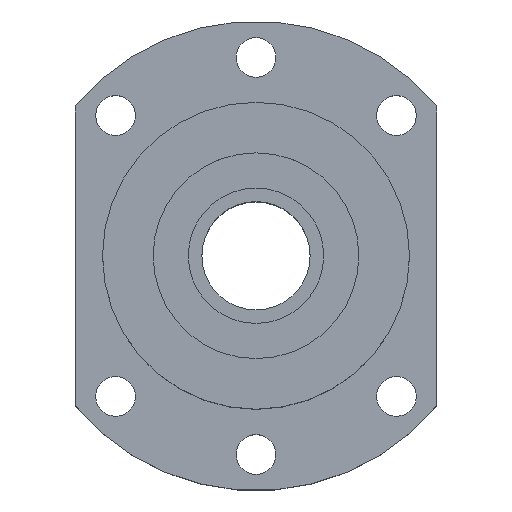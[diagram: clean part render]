
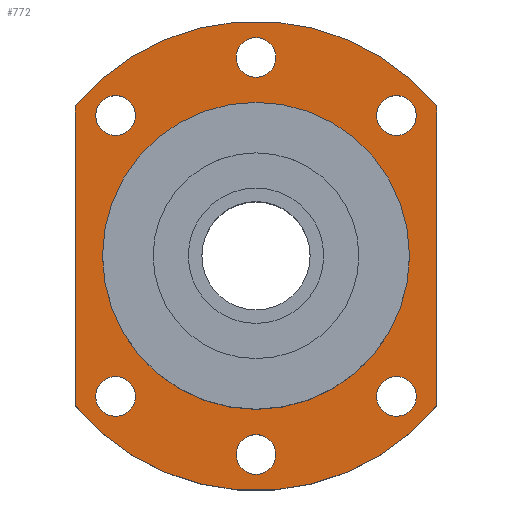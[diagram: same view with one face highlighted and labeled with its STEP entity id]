
A CAD part, top view. The second image highlights one B-rep face of the part: STEP entity #772.
In plain terms, the highlighted planar face has unit normal (0, 0, 1).
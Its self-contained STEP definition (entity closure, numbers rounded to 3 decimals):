
#70=LINE($,#1339,#102);
#71=LINE($,#1342,#103);
#102=VECTOR($,#1123,83.066);
#103=VECTOR($,#1126,83.066);
#152=FACE_BOUND($,#297,.T.);
#153=FACE_BOUND($,#298,.T.);
#154=FACE_BOUND($,#299,.T.);
#155=FACE_BOUND($,#300,.T.);
#156=FACE_BOUND($,#301,.T.);
#157=FACE_BOUND($,#302,.T.);
#158=FACE_BOUND($,#303,.T.);
#159=FACE_BOUND($,#304,.T.);
#297=EDGE_LOOP($,(#686));
#298=EDGE_LOOP($,(#687));
#299=EDGE_LOOP($,(#688));
#300=EDGE_LOOP($,(#689));
#301=EDGE_LOOP($,(#690));
#302=EDGE_LOOP($,(#691));
#303=EDGE_LOOP($,(#692));
#304=EDGE_LOOP($,(#693,#694,#695,#696));
#333=CIRCLE($,#832,5.5);
#337=CIRCLE($,#839,5.5);
#341=CIRCLE($,#846,5.5);
#345=CIRCLE($,#853,5.5);
#349=CIRCLE($,#860,5.5);
#353=CIRCLE($,#867,5.5);
#355=CIRCLE($,#870,42.5);
#359=CIRCLE($,#878,65.);
#360=CIRCLE($,#882,65.);
#401=VERTEX_POINT($,#1255);
#405=VERTEX_POINT($,#1266);
#409=VERTEX_POINT($,#1277);
#413=VERTEX_POINT($,#1288);
#417=VERTEX_POINT($,#1299);
#421=VERTEX_POINT($,#1310);
#423=VERTEX_POINT($,#1315);
#429=VERTEX_POINT($,#1331);
#430=VERTEX_POINT($,#1333);
#431=VERTEX_POINT($,#1337);
#432=VERTEX_POINT($,#1341);
#485=EDGE_CURVE($,#401,#401,#333,.T.);
#489=EDGE_CURVE($,#405,#405,#337,.T.);
#493=EDGE_CURVE($,#409,#409,#341,.T.);
#497=EDGE_CURVE($,#413,#413,#345,.T.);
#501=EDGE_CURVE($,#417,#417,#349,.T.);
#505=EDGE_CURVE($,#421,#421,#353,.T.);
#507=EDGE_CURVE($,#423,#423,#355,.T.);
#514=EDGE_CURVE($,#430,#429,#359,.T.);
#517=EDGE_CURVE($,#429,#431,#70,.T.);
#518=EDGE_CURVE($,#432,#430,#71,.T.);
#520=EDGE_CURVE($,#431,#432,#360,.T.);
#686=ORIENTED_EDGE($,*,*,#485,.T.);
#687=ORIENTED_EDGE($,*,*,#489,.T.);
#688=ORIENTED_EDGE($,*,*,#493,.T.);
#689=ORIENTED_EDGE($,*,*,#497,.T.);
#690=ORIENTED_EDGE($,*,*,#501,.T.);
#691=ORIENTED_EDGE($,*,*,#505,.T.);
#692=ORIENTED_EDGE($,*,*,#507,.T.);
#693=ORIENTED_EDGE($,*,*,#517,.T.);
#694=ORIENTED_EDGE($,*,*,#520,.T.);
#695=ORIENTED_EDGE($,*,*,#518,.T.);
#696=ORIENTED_EDGE($,*,*,#514,.T.);
#720=PLANE($,#883);
#772=ADVANCED_FACE($,(#152,#153,#154,#155,#156,#157,#158,#159),#720,.T.);
#832=AXIS2_PLACEMENT_3D($,#1256,#1022,#1023);
#839=AXIS2_PLACEMENT_3D($,#1267,#1036,#1037);
#846=AXIS2_PLACEMENT_3D($,#1278,#1050,#1051);
#853=AXIS2_PLACEMENT_3D($,#1289,#1064,#1065);
#860=AXIS2_PLACEMENT_3D($,#1300,#1078,#1079);
#867=AXIS2_PLACEMENT_3D($,#1311,#1092,#1093);
#870=AXIS2_PLACEMENT_3D($,#1316,#1098,#1099);
#878=AXIS2_PLACEMENT_3D($,#1334,#1117,#1118);
#882=AXIS2_PLACEMENT_3D($,#1345,#1130,#1131);
#883=AXIS2_PLACEMENT_3D($,#1346,#1132,#1133);
#1022=DIRECTION('center_axis',(0.,0.,-1.));
#1023=DIRECTION('ref_axis',(-1.,0.,0.));
#1036=DIRECTION('center_axis',(0.,0.,-1.));
#1037=DIRECTION('ref_axis',(-1.,0.,0.));
#1050=DIRECTION('center_axis',(0.,0.,-1.));
#1051=DIRECTION('ref_axis',(-1.,0.,0.));
#1064=DIRECTION('center_axis',(0.,0.,-1.));
#1065=DIRECTION('ref_axis',(-1.,0.,0.));
#1078=DIRECTION('center_axis',(0.,0.,-1.));
#1079=DIRECTION('ref_axis',(-1.,0.,0.));
#1092=DIRECTION('center_axis',(0.,0.,-1.));
#1093=DIRECTION('ref_axis',(-1.,0.,0.));
#1098=DIRECTION('center_axis',(0.,0.,-1.));
#1099=DIRECTION('ref_axis',(-1.,0.,0.));
#1117=DIRECTION('center_axis',(0.,0.,1.));
#1118=DIRECTION('ref_axis',(0.769,0.639,0.));
#1123=DIRECTION($,(0.,-1.,0.));
#1126=DIRECTION($,(0.,1.,0.));
#1130=DIRECTION('center_axis',(0.,0.,1.));
#1131=DIRECTION('ref_axis',(-0.769,-0.639,0.));
#1132=DIRECTION('center_axis',(0.,0.,1.));
#1133=DIRECTION('ref_axis',(1.,0.,0.));
#1255=CARTESIAN_POINT('',(5.5,-55.,19.));
#1256=CARTESIAN_POINT('Origin',(0.,-55.,19.));
#1266=CARTESIAN_POINT('',(-33.391,38.891,19.));
#1267=CARTESIAN_POINT('Origin',(-38.891,38.891,19.));
#1277=CARTESIAN_POINT('',(44.391,38.891,19.));
#1278=CARTESIAN_POINT('Origin',(38.891,38.891,19.));
#1288=CARTESIAN_POINT('',(5.5,55.,19.));
#1289=CARTESIAN_POINT('Origin',(0.,55.,19.));
#1299=CARTESIAN_POINT('',(44.391,-38.891,19.));
#1300=CARTESIAN_POINT('Origin',(38.891,-38.891,19.));
#1310=CARTESIAN_POINT('',(-33.391,-38.891,19.));
#1311=CARTESIAN_POINT('Origin',(-38.891,-38.891,19.));
#1315=CARTESIAN_POINT('',(42.5,0.,19.));
#1316=CARTESIAN_POINT('Origin',(0.,0.,19.));
#1331=CARTESIAN_POINT('',(-50.,41.533,19.));
#1333=CARTESIAN_POINT('',(50.,41.533,19.));
#1334=CARTESIAN_POINT('Origin',(0.,0.,19.));
#1337=CARTESIAN_POINT('',(-50.,-41.533,19.));
#1339=CARTESIAN_POINT($,(-50.,41.533,19.));
#1341=CARTESIAN_POINT('',(50.,-41.533,19.));
#1342=CARTESIAN_POINT($,(50.,-41.533,19.));
#1345=CARTESIAN_POINT('Origin',(0.,0.,19.));
#1346=CARTESIAN_POINT('Origin',(0.,0.,
19.));
